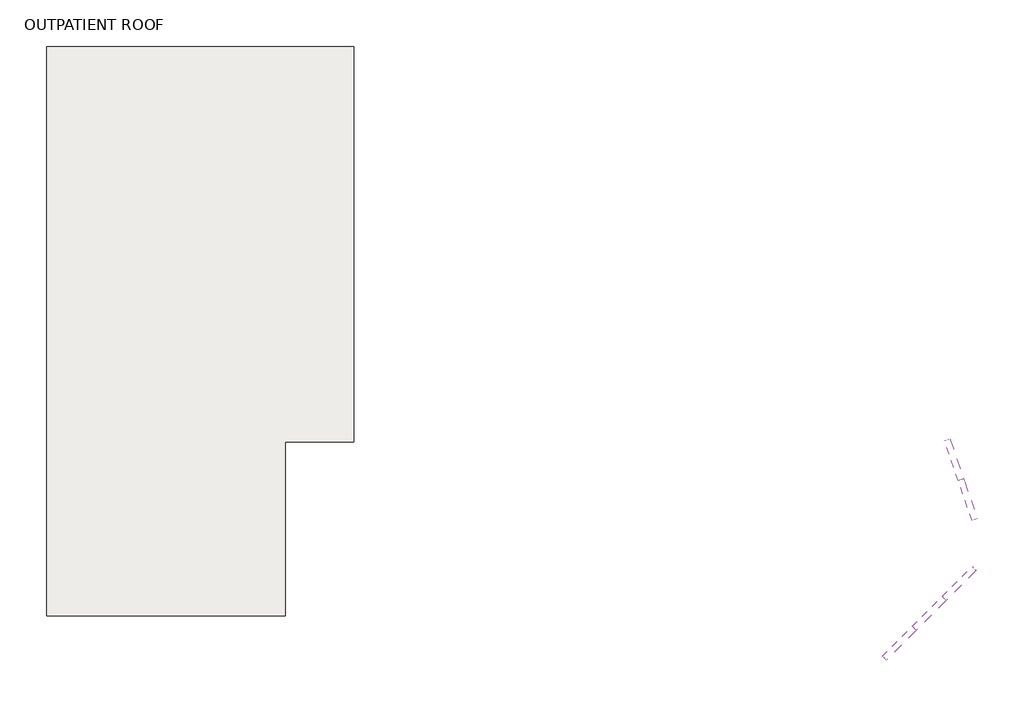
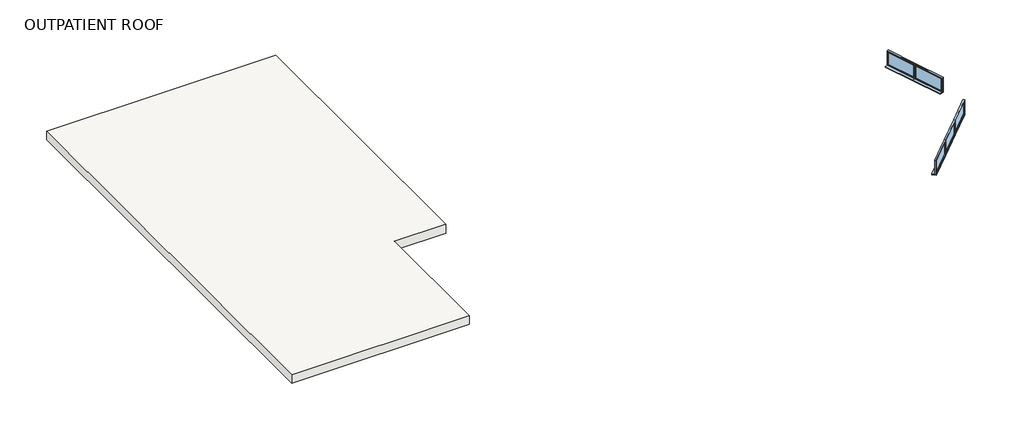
# One storey: 5 windows, 1 roof.
"""IFC4 building model written with IfcOpenShell, lengths in millimetres."""

from ifc_helpers import new_model, si_unit, frame, origin, place, context, project, spatial, polyline, outline, extrude, transform, mapped, element, save
from components import windows_concept_plain_sgl_1810x910mm_a9162c4a

model = new_model("IFC4")

# Units and contexts
model_context = context("Model", 3, world=origin())
ifc_project = project(units=[si_unit("LENGTHUNIT", "METRE", prefix="MILLI")], contexts=[model_context])

# Site, building, storey
site = spatial("IfcSite", under=ifc_project)
building = spatial("IfcBuilding", under=site)
storey = spatial("IfcBuildingStorey", under=building, Name="OUTPATIENT ROOF", Elevation=4500.0)

# Roof
placement = place(None, origin())
element("IfcRoof", 1, ObjectType="Roof_Generic400mm", at=placement, inside=storey, context=model_context, shape_type="SweptSolid", body=[
    extrude(outline(polyline([(411860.3206883, -369815.0026386), (425012.3206883, -369815.0026386), (425012.3206883, -386739.0026386), (422066.3206883, -386739.0026386), (422066.3206883, -394194.0026386), (411860.3206883, -394194.0026386), (411860.3206883, -369815.0026386)])), frame((0.0, 0.0, 4500.0), z_axis=(0.0, 0.0, 1.0), x_axis=(1.0, 0.0, 0.0)), (0.0, 0.0, 1.0), 525.0),
])

# Windows
windows_concept_plain_sgl_1810x910mm_shape = windows_concept_plain_sgl_1810x910mm_a9162c4a(model_context)
element("IfcWindow", 2, ObjectType="Windows_Concept_Plain_Sgl : 1810x910mm", at=placement, inside=storey, context=model_context, shape_type="MappedRepresentation", body=[
    mapped(windows_concept_plain_sgl_1810x910mm_shape, transform((450759.7137274, -387480.6222263, 4500.0), x_axis=(-0.32556815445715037, 0.9455185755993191, 0.0), y_axis=(-0.9455185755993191, -0.32556815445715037, 0.0), z_axis=(0.0, 0.0, 1.0))),
])
element("IfcWindow", 3, ObjectType="Windows_Concept_Plain_Sgl : 1810x910mm", at=placement, inside=storey, context=model_context, shape_type="MappedRepresentation", body=[
    mapped(windows_concept_plain_sgl_1810x910mm_shape, transform((451348.992087, -389192.0108481, 4500.0), x_axis=(-0.32556815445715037, 0.9455185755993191, 0.0), y_axis=(-0.9455185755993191, -0.32556815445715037, 0.0), z_axis=(0.0, 0.0, 1.0))),
])
element("IfcWindow", 4, ObjectType="Windows_Concept_Plain_Sgl : 1810x910mm", at=placement, inside=storey, context=model_context, shape_type="MappedRepresentation", body=[
    mapped(windows_concept_plain_sgl_1810x910mm_shape, transform((450956.7104644, -392856.7017418, 4500.0), x_axis=(0.7071067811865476, 0.7071067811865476, 0.0), y_axis=(-0.7071067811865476, 0.7071067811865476, 0.0), z_axis=(0.0, 0.0, 1.0))),
])
element("IfcWindow", 5, ObjectType="Windows_Concept_Plain_Sgl : 1810x910mm", at=placement, inside=storey, context=model_context, shape_type="MappedRepresentation", body=[
    mapped(windows_concept_plain_sgl_1810x910mm_shape, transform((449676.8471904, -394136.5650158, 4500.0), x_axis=(0.7071067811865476, 0.7071067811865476, 0.0), y_axis=(-0.7071067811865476, 0.7071067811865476, 0.0), z_axis=(0.0, 0.0, 1.0))),
])
element("IfcWindow", 6, ObjectType="Windows_Concept_Plain_Sgl : 1810x910mm", at=placement, inside=storey, context=model_context, shape_type="MappedRepresentation", body=[
    mapped(windows_concept_plain_sgl_1810x910mm_shape, transform((448400.6861845, -395412.7260218, 4500.0), x_axis=(0.7071067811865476, 0.7071067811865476, 0.0), y_axis=(-0.7071067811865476, 0.7071067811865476, 0.0), z_axis=(0.0, 0.0, 1.0))),
])

save(model, "model.ifc")
